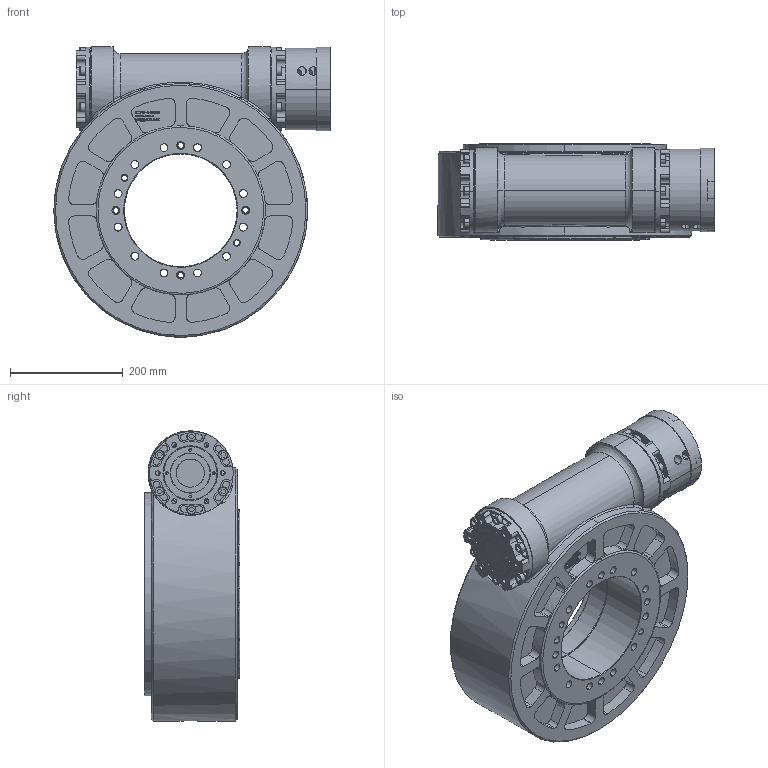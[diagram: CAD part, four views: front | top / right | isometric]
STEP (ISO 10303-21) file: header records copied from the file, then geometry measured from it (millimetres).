
FILE_DESCRIPTION (( 'STEP AP203' ), '1' );
FILE_NAME ('HTN215-40-32-110-130-M8-16xm12.STEP', '2024-08-05T08:23:40', ( 'Windows User' ), ( 'P R C' ), 'SwSTEP 2.0', 'SolidWorks 2016', '' );
FILE_SCHEMA (( 'CONFIG_CONTROL_DESIGN' ));
Length unit declared in the file: millimetre
Products named in the file (1): HTN215-40-32-110-130-M8-16xm12
Bounding box: 490 x 170 x 515 mm (x, y, z)
Surface area: 1285995.5 mm2 (no closed solid volume)
Topology: 0 solids, 105 shells, 1612 faces, 4557 edges, 3085 vertices
Faces by surface type: plane 797, cylinder 519, bspline 234, cone 38, torus 24
Entity records: 86985 total; most frequent: CARTESIAN_POINT 46775, ORIENTED_EDGE 8470, DIRECTION 7420, EDGE_CURVE 4557, VERTEX_POINT 3085, VECTOR 2646, LINE 2646, AXIS2_PLACEMENT_3D 2387
